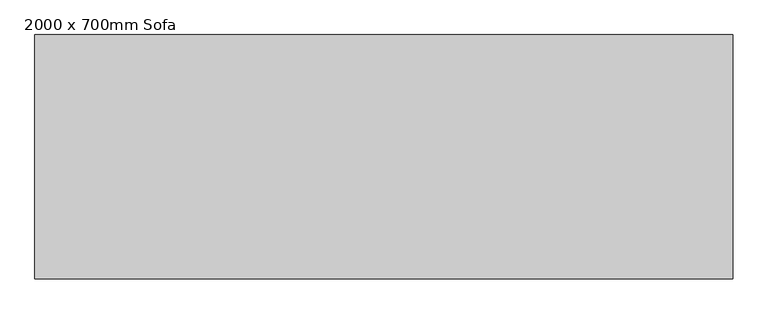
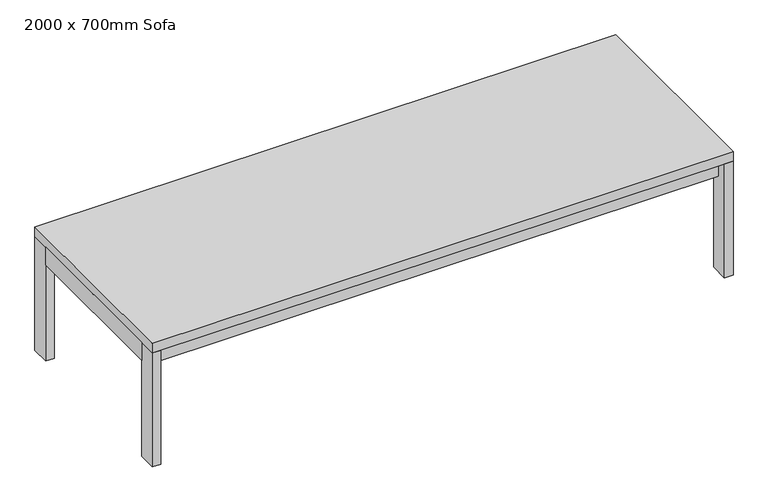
"""IFC4 building model written with IfcOpenShell, lengths in millimetres: furniture geometry, Table - Allround : 2000 x 700mm Sofa."""

from ifc_helpers import new_model, si_unit, frame, origin, origin_with_axes, place, context, project, spatial, polyline, outline, extrude, source, transform, mapped, element, save


def furniture_2000_x_700mm_sofa_1e09125b(model_context):
    return source(origin(), model_context, "Body", "SweptSolid", [
        extrude(outline(polyline([(970.0, 315.0), (970.0, 289.6), (-970.0, 289.6), (-970.0, 315.0), (970.0, 315.0)])), frame((0.0, 0.0, 350.0), z_axis=(0.0, 0.0, 1.0), x_axis=(1.0, 0.0, 0.0)), (0.0, 0.0, 1.0), 65.0),
        extrude(outline(polyline([(970.0, -315.0), (-970.0, -315.0), (-970.0, -289.6), (970.0, -289.6), (970.0, -315.0)])), frame((0.0, 0.0, 350.0), z_axis=(0.0, 0.0, 1.0), x_axis=(1.0, 0.0, 0.0)), (0.0, 0.0, 1.0), 65.0),
        extrude(outline(polyline([(-970.0, -286.5), (-1000.0, -286.5), (-1000.0, 286.5), (-970.0, 286.5), (-970.0, -286.5)])), frame((0.0, 0.0, 350.0), z_axis=(0.0, 0.0, 1.0), x_axis=(1.0, 0.0, 0.0)), (0.0, 0.0, 1.0), 65.0),
        extrude(outline(polyline([(970.0, -286.5), (970.0, 286.5), (1000.0, 286.5), (1000.0, -286.5), (970.0, -286.5)])), frame((0.0, 0.0, 350.0), z_axis=(0.0, 0.0, 1.0), x_axis=(1.0, 0.0, 0.0)), (0.0, 0.0, 1.0), 65.0),
        extrude(outline(polyline([(1000.0, 350.0), (1000.0, -350.0), (-1000.0, -350.0), (-1000.0, 350.0), (1000.0, 350.0)])), frame((0.0, 0.0, 415.0), z_axis=(0.0, 0.0, 1.0), x_axis=(1.0, 0.0, 0.0)), (0.0, 0.0, 1.0), 35.0),
        extrude(outline(polyline([(-970.0, 350.0), (-970.0, 286.5), (-1000.0, 286.5), (-1000.0, 350.0), (-970.0, 350.0)])), origin_with_axes(), (0.0, 0.0, 1.0), 415.0),
        extrude(outline(polyline([(970.0, 350.0), (1000.0, 350.0), (1000.0, 286.5), (970.0, 286.5), (970.0, 350.0)])), origin_with_axes(), (0.0, 0.0, 1.0), 415.0),
        extrude(outline(polyline([(-970.0, -350.0), (-1000.0, -350.0), (-1000.0, -286.5), (-970.0, -286.5), (-970.0, -350.0)])), origin_with_axes(), (0.0, 0.0, 1.0), 415.0),
        extrude(outline(polyline([(970.0, -350.0), (970.0, -286.5), (1000.0, -286.5), (1000.0, -350.0), (970.0, -350.0)])), origin_with_axes(), (0.0, 0.0, 1.0), 415.0),
    ])


if __name__ == "__main__":
    model = new_model("IFC4")
    model_context = context("Model", 3, world=origin())
    ifc_project = project(units=[si_unit("LENGTHUNIT", "METRE", prefix="MILLI")], contexts=[model_context])
    site = spatial("IfcSite", under=ifc_project)
    building = spatial("IfcBuilding", under=site)
    placement = place(None, origin())
    furniture_2000_x_700mm_sofa_shape = furniture_2000_x_700mm_sofa_1e09125b(model_context)
    element("IfcFurniture", 1, ObjectType="Table - Allround : 2000 x 700mm Sofa", at=placement, inside=building, context=model_context, shape_type="MappedRepresentation", body=[
        mapped(furniture_2000_x_700mm_sofa_shape, transform((0.0, 0.0, 0.0), x_axis=(1.0, 0.0, 0.0), y_axis=(0.0, 1.0, 0.0), z_axis=(0.0, 0.0, 1.0))),
    ])
    save(model, "model.ifc")
